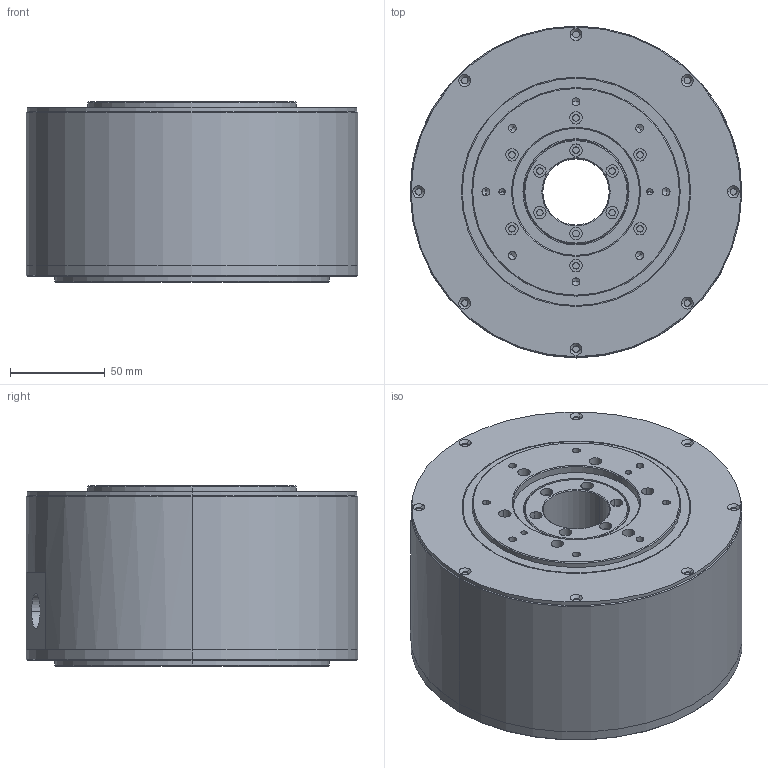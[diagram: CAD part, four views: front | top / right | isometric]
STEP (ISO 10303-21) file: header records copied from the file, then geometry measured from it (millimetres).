
FILE_DESCRIPTION((''),'2;1');
FILE_NAME('PM-DDC12D','2016-02-05T',('jb17719'),(''),'PRO/ENGINEER BY PARAMETRIC TECHNOLOGY CORPORATION, 2008070','PRO/ENGINEER BY PARAMETRIC TECHNOLOGY CORPORATION, 2008070','');
FILE_SCHEMA(('AUTOMOTIVE_DESIGN_CC2 { 1 2 10303 214 -1 1 5 2 }'));
Length unit declared in the file: millimetre
Products named in the file (1): PM-DDC12D
Bounding box: 175 x 175 x 95 mm (x, y, z)
Volume: 2067478.9 mm3; surface area: 164947.5 mm2
Topology: 2 solids, 2 shells, 320 faces, 726 edges, 448 vertices
Faces by surface type: cylinder 186, cone 70, plane 64
Entity records: 9176 total; most frequent: DIRECTION 1757, CARTESIAN_POINT 1458, ORIENTED_EDGE 1380, AXIS2_PLACEMENT_3D 747, EDGE_CURVE 690, VERTEX_POINT 448, CIRCLE 427, EDGE_LOOP 426
